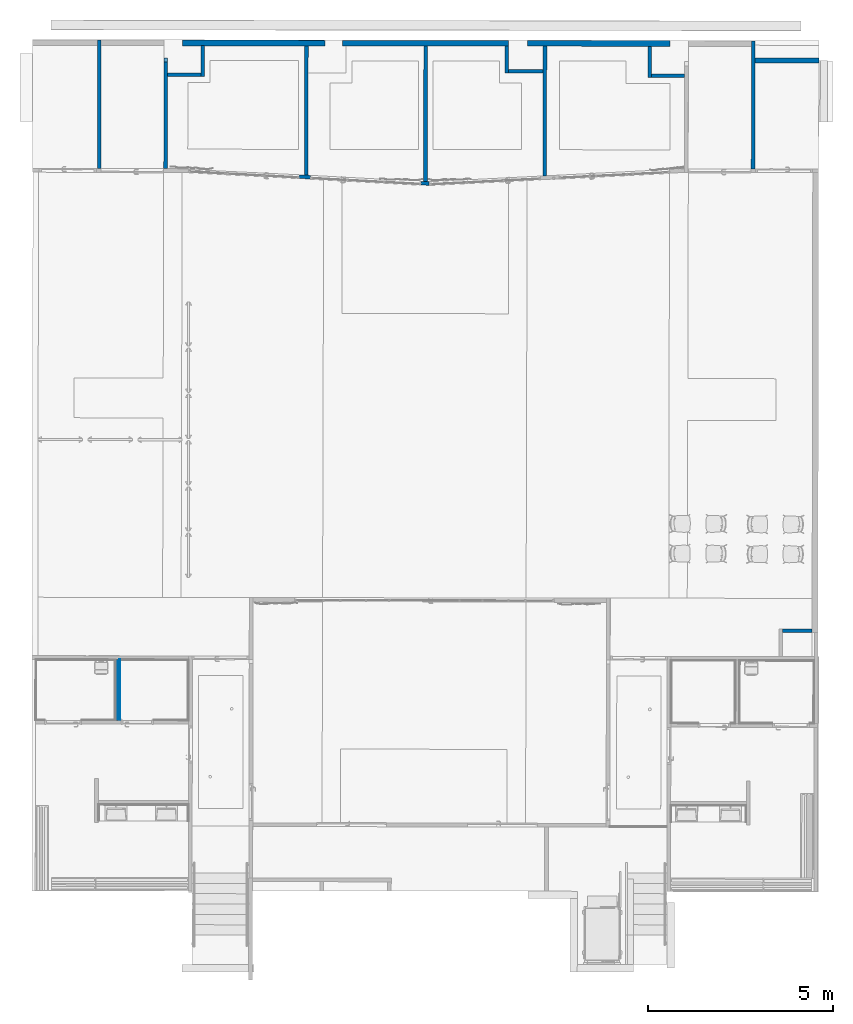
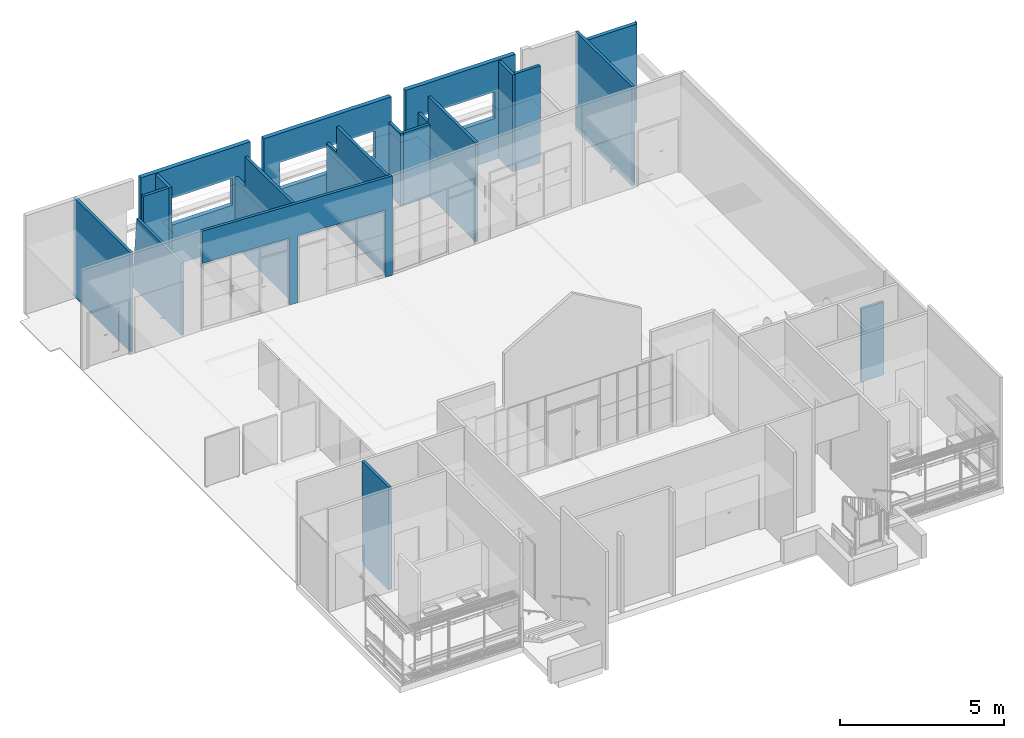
# One storey, part 17 of 43: 21 walls, 8 openings.
"""IFC2X3 building model written with IfcOpenShell, lengths in metres."""

from ifc_helpers import new_model, entity, si_unit, converted_unit, derived_unit, direction, frame, frame_2d, origin, place, context, subcontext, project, spatial, polyline, rectangle, outline, extrude, clip, halfspace, bounded_halfspace, faceted_brep, material, layer, layer_set, layer_usage, type_object, element, save


model = new_model("IFC2X3")

# Units and contexts
model_context = context("Model", 3, precision=1e-05, world=origin(), true_north=direction((6.123233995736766e-17, 1.0)))
body_context = subcontext(model_context, "Body", "Model", "MODEL_VIEW")
ifc_project = project(units=[si_unit("LENGTHUNIT", "METRE"), si_unit("AREAUNIT", "SQUARE_METRE"), converted_unit("PLANEANGLEUNIT", "DEGREE", entity("IfcPlaneAngleMeasure", 0.017453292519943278), si_unit("PLANEANGLEUNIT", "RADIAN"), dimensions=[0, 0, 0, 0, 0, 0, 0]), derived_unit("THERMALTRANSMITTANCEUNIT", [(si_unit("MASSUNIT", "GRAM", prefix="KILO"), 1), (si_unit("THERMODYNAMICTEMPERATUREUNIT", "KELVIN"), -1), (si_unit("TIMEUNIT", "SECOND"), -3)])], contexts=[model_context])

# Site, building, storey
site_placement = place(None, frame((1253.6752467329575, 2072.143113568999, 91.49999999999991), z_axis=(0.0, 0.0, 1.0), x_axis=(0.7237211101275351, 0.6900925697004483, 0.0)))
site = spatial("IfcSite", under=ifc_project, at=site_placement, Name="Surface", CompositionType="ELEMENT")
building_placement = place(site_placement, origin())
building = spatial("IfcBuilding", under=site, at=building_placement, CompositionType="ELEMENT")
storey_placement = place(building_placement, frame((0.0, 0.0, -4.629999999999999)))
storey = spatial("IfcBuildingStorey", under=building, at=storey_placement, Name="rez de rue -1.10m", CompositionType="ELEMENT", Elevation=-4.629999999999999)

# Walls
ifc_material_1 = material(Name="OMD_Cloison 100mm CF1h")
ifc_layer_1 = layer(ifc_material_1, 0.1)
ifc_layer_set_1 = layer_set([ifc_layer_1], Name="Mur de base:Cloison 100mm CF1h")
ifc_layer_usage_1 = layer_usage(ifc_layer_set_1, "AXIS2", "NEGATIVE", 0.05)
wall_type_1 = type_object("IfcWallType", Name="Mur de base:Cloison 100mm CF1h", PredefinedType="STANDARD", material=ifc_layer_set_1)
wall_1_placement = place(storey_placement, frame((190.01512372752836, 4.270476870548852, 0.0), z_axis=(0.0, 0.0, 1.0), x_axis=(-0.6911544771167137, -0.7227070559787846, 0.0)))
element("IfcWallStandardCase", 1, at=wall_1_placement, inside=storey, type_object=wall_type_1, material=ifc_layer_usage_1, Name="Mur de base:Cloison 100mm CF1h", ObjectType="Mur de base:Cloison 100mm CF1h", context=body_context, shape_type="Clipping", body=[
    clip(extrude(outline(polyline([(3.4667700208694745, -0.049999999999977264), (3.466770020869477, 0.05000000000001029), (0.602556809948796, 0.05000000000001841), (0.4695568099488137, 0.0500000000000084), (0.0, 0.050000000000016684), (2.3611774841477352e-05, -0.0499999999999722), (0.153023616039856, -0.049999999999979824), (3.4667700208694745, -0.049999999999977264)])), origin(), (0.0, 0.0, 1.0), 3.7031798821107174), bounded_halfspace(frame((2.361177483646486e-05, -0.0499999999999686, 3.6723209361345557), z_axis=(-0.00890106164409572, 0.0, 0.9999603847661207), x_axis=(0.0, -1.0, 0.0)), False, frame((2.361177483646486e-05, -0.0499999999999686, 3.6723209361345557)), polyline([(0.0, 0.0), (0.1530000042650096, 0.0), (3.466746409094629, 0.0), (3.4667464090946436, 0.09999999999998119), (0.6025331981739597, 0.0999999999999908), (0.4695331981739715, 0.09999999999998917), (-2.3611774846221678e-05, 0.09999999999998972), (0.0, 0.0)]))),
])
ifc_layer_usage_2 = layer_usage(ifc_layer_set_1, "AXIS2", "NEGATIVE", 0.05)
wall_2_placement = place(storey_placement, frame((177.21651182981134, 16.504531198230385, 0.0), z_axis=(0.0, 0.0, 1.0), x_axis=(-0.6911544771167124, -0.7227070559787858, 0.0)))
element("IfcWallStandardCase", 2, at=wall_2_placement, inside=storey, type_object=wall_type_1, material=ifc_layer_usage_2, Name="Mur de base:Cloison 100mm CF1h", ObjectType="Mur de base:Cloison 100mm CF1h", context=body_context, shape_type="Clipping", body=[
    clip(extrude(outline(polyline([(3.48242441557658, -0.04999999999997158), (3.482424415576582, 0.050000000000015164), (0.0, 0.05000000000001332), (2.3611774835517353e-05, -0.049999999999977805), (3.48242441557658, -0.04999999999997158)])), origin(), (0.0, 0.0, 1.0), 3.7031930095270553), bounded_halfspace(frame((2.3611774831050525e-05, -0.049999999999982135, 3.6721851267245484), z_axis=(-0.008900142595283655, -0.00012790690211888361, 0.9999603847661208), x_axis=(0.01436984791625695, -0.999896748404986, 0.0)), False, frame((2.3611774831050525e-05, -0.049999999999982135, 3.6721851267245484)), polyline([(0.0, 0.0), (3.4824008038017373, 0.0), (3.4824008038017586, 0.1), (-2.3611774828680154e-05, 0.09999999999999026), (0.0, 0.0)]))),
])
ifc_layer_usage_3 = layer_usage(ifc_layer_set_1, "AXIS2", "NEGATIVE", 0.05)
wall_3_placement = place(storey_placement, frame((178.18324237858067, 14.911056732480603, 0.0), z_axis=(0.0, 0.0, 1.0), x_axis=(-0.6911544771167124, -0.7227070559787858, 0.0)))
element("IfcWallStandardCase", 3, at=wall_3_placement, inside=storey, type_object=wall_type_1, material=ifc_layer_usage_3, Name="Mur de base:Cloison 100mm CF1h", ObjectType="Mur de base:Cloison 100mm CF1h", context=body_context, shape_type="Clipping", body=[
    clip(extrude(rectangle(XDim=2.9989693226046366, YDim=0.1000000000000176, at=frame_2d((1.4994846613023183, 2.3522850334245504e-15), x_axis=(-1.0, 0.0))), origin(), (0.0, 0.0, 1.0), 2.7000000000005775), halfspace(frame((0.0, -0.04999999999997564, 0.0), z_axis=(-0.9954583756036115, 0.0, 0.09519780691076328), x_axis=(0.0, 1.0, 0.0)), False)),
])

# Wall, openings
ifc_layer_usage_4 = layer_usage(ifc_layer_set_1, "AXIS2", "POSITIVE", -0.05)
wall_4_placement = place(storey_placement, frame((176.5230567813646, 12.280037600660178, 0.0), z_axis=(0.0, 0.0, 1.0), x_axis=(0.685544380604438, -0.7280308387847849, 0.0)))
wall_4 = element("IfcWallStandardCase", 4, at=wall_4_placement, inside=storey, type_object=wall_type_1, material=ifc_layer_usage_4, Name="Mur de base:Cloison 100mm CF1h", ObjectType="Mur de base:Cloison 100mm CF1h", context=body_context, shape_type="Clipping", body=[
    clip(extrude(outline(polyline([(0.0026185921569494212, -0.04999999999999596), (6.5298423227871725, -0.049999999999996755), (6.5246015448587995, 0.04999999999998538), (0.0, 0.04999999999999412), (0.0026185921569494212, -0.04999999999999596)])), origin(), (0.0, 0.0, 1.0), 3.707287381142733), bounded_halfspace(frame((0.0026185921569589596, -0.04999999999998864, 3.7042465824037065), z_axis=(-0.0004658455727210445, 0.008888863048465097, 0.9999603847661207), x_axis=(-0.9986295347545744, -0.052335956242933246, 0.0)), False, frame((0.0026185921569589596, -0.04999999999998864, 3.7042465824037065)), polyline([(0.0, 0.0), (6.527223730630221, 0.0), (6.521982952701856, 0.09999999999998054), (-0.002618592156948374, 0.09999999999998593), (0.0, 0.0)]))),
])
opening_1_placement = place(wall_4_placement, frame((4.896207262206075, -1.69969235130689, 0.0)))
element("IfcOpeningElement", 5, at=opening_1_placement, cuts=wall_4, Name="Mur de base:Cloison 100mm CF1h", ObjectType="Opening", context=body_context, shape_type="SweptSolid", body=[
    extrude(rectangle(XDim=2.4999999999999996, YDim=3.0000000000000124, at=frame_2d((2.220446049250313e-16, -4.440892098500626e-16), x_axis=(1.0, 0.0))), frame((-0.09008670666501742, 1.4972923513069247, 1.2499999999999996), z_axis=(0.0, 1.0, 0.0), x_axis=(0.0, 0.0, 1.0)), (0.0, 0.0, 1.0), 0.40480000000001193),
])
opening_2_placement = place(wall_4_placement, frame((1.5927057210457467, -1.6996919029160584, 0.0)))
element("IfcOpeningElement", 6, at=opening_2_placement, cuts=wall_4, Name="Mur de base:Cloison 100mm CF1h", ObjectType="Opening", context=body_context, shape_type="SweptSolid", body=[
    extrude(rectangle(XDim=2.4999999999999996, YDim=2.9999991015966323, at=frame_2d((0.0, -2.220446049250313e-16), x_axis=(0.0, 1.0))), frame((-0.09008667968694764, 1.497291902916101, 1.25), z_axis=(0.0, 1.0, 0.0), x_axis=(-1.0, 0.0, 0.0)), (0.0, 0.0, 1.0), 0.40480000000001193),
])

# Walls
ifc_material_2 = material(Name="OMD_Cloison 100mm")
ifc_layer_2 = layer(ifc_material_2, 0.1)
ifc_layer_set_2 = layer_set([ifc_layer_2], Name="Mur de base:Cloison 100mm")
wall_type_2 = type_object("IfcWallType", Name="Mur de base:Cloison 100mm", PredefinedType="STANDARD", material=ifc_layer_set_2)
wall_5_placement = place(storey_placement, frame((166.0008740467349, 4.025427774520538, 0.0), z_axis=(0.0, 0.0, 1.0), x_axis=(-0.6911544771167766, -0.7227070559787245, 0.0)))
element("IfcWall", 7, at=wall_5_placement, inside=storey, type_object=wall_type_2, Name="Mur de base:Cloison 100mm", ObjectType="Mur de base:Cloison 100mm", context=body_context, shape_type="Brep", body=[
    faceted_brep([(0.09941587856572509, -0.04999999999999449, 0.0), (1.6494697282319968, -0.04999999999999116, 0.0), (1.6494697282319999, -0.0499999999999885, 3.8361979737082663), (2.3611774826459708e-05, -0.049999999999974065, 3.82151708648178), (2.3611774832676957e-05, -0.04999999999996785, 0.08000000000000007), (0.0994158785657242, -0.04999999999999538, 0.08000000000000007), (1.6494697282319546, 0.0500000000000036, 0.0), (0.09939226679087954, 0.04999999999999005, 0.0), (0.09939226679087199, 0.04999999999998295, 0.08000000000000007), (0.0, 0.05000000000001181, 0.08000000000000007), (0.0, 0.05000000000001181, 3.82152966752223), (1.6494697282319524, 0.05000000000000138, 3.8362107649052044)], [[[0, 1, 2, 3, 4, 5]], [[6, 7, 8, 9, 10, 11]], [[1, 0, 7, 6]], [[2, 1, 6, 11]], [[7, 0, 5, 8]], [[3, 10, 9, 4]], [[3, 2, 11, 10]], [[9, 8, 5, 4]]]),
])
ifc_layer_usage_5 = layer_usage(ifc_layer_set_2, "AXIS2", "POSITIVE", -0.05)
wall_6_placement = place(storey_placement, frame((179.13895725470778, 14.458108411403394, 0.0), z_axis=(0.0, 0.0, 1.0), x_axis=(-0.6911544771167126, -0.7227070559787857, 0.0)))
element("IfcWallStandardCase", 8, at=wall_6_placement, inside=storey, type_object=wall_type_2, material=ifc_layer_usage_5, Name="Mur de base:Cloison 100mm", ObjectType="Mur de base:Cloison 100mm", context=body_context, shape_type="SweptSolid", body=[
    extrude(rectangle(XDim=0.8379020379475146, YDim=0.10000000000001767, at=frame_2d((0.4189510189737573, 2.0816681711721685e-15), x_axis=(-1.0, 0.0))), origin(), (0.0, 0.0, 1.0), 3.6299999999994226),
])
ifc_layer_usage_6 = layer_usage(ifc_layer_set_2, "AXIS2", "POSITIVE", -0.05)
wall_7_placement = place(storey_placement, frame((178.55825988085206, 13.923243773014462, 0.0), z_axis=(0.0, 0.0, 1.0), x_axis=(-0.722707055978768, 0.691154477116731, 0.0)))
element("IfcWallStandardCase", 9, at=wall_7_placement, inside=storey, type_object=wall_type_2, material=ifc_layer_usage_6, Name="Mur de base:Cloison 100mm", ObjectType="Mur de base:Cloison 100mm", context=body_context, shape_type="SweptSolid", body=[
    extrude(rectangle(XDim=0.9037591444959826, YDim=0.09999999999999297, at=frame_2d((0.4518795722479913, -1.3704315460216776e-15), x_axis=(-1.0, 0.0))), origin(), (0.0, 0.0, 1.0), 3.6299999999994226),
])
ifc_layer_usage_7 = layer_usage(ifc_layer_set_2, "AXIS2", "POSITIVE", -0.05)
wall_8_placement = place(storey_placement, frame((187.88447979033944, 6.095480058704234, 0.0), z_axis=(0.0, 0.0, 1.0), x_axis=(-0.6911544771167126, -0.7227070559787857, 0.0)))
element("IfcWallStandardCase", 10, at=wall_8_placement, inside=storey, type_object=wall_type_2, material=ifc_layer_usage_7, Name="Mur de base:Cloison 100mm", ObjectType="Mur de base:Cloison 100mm", context=body_context, shape_type="SweptSolid", body=[
    extrude(outline(polyline([(0.8452020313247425, -0.04999999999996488), (0.8452020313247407, 0.05000000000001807), (0.7452020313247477, 0.05000000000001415), (0.0, 0.050000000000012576), (2.3611774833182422e-05, -0.04999999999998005), (0.8452020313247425, -0.04999999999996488)])), origin(), (0.0, 0.0, 1.0), 3.6299999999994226),
])
ifc_layer_usage_8 = layer_usage(ifc_layer_set_2, "AXIS2", "POSITIVE", -0.05)
wall_9_placement = place(storey_placement, frame((187.371007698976, 5.48622421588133, 0.0), z_axis=(0.0, 0.0, 1.0), x_axis=(0.7227070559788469, -0.6911544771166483, 0.0)))
element("IfcWallStandardCase", 11, at=wall_9_placement, inside=storey, type_object=wall_type_2, material=ifc_layer_usage_8, Name="Mur de base:Cloison 100mm", ObjectType="Mur de base:Cloison 100mm", context=body_context, shape_type="SweptSolid", body=[
    extrude(outline(polyline([(0.8940794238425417, -0.04999999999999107), (0.8941930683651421, 0.05000000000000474), (0.0, 0.04999999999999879), (0.0, -0.04999999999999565), (0.8940794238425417, -0.04999999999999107)])), origin(), (0.0, 0.0, 1.0), 3.6299999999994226),
])
ifc_layer_usage_9 = layer_usage(ifc_layer_set_2, "AXIS2", "NEGATIVE", 0.05)
wall_10_placement = place(storey_placement, frame((179.5699556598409, -7.837406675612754, 0.0), z_axis=(0.0, 0.0, 1.0), x_axis=(0.7227070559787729, -0.691154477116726, 0.0)))
element("IfcWallStandardCase", 12, at=wall_10_placement, inside=storey, type_object=wall_type_2, material=ifc_layer_usage_9, Name="Mur de base:Cloison 100mm", ObjectType="Mur de base:Cloison 100mm", context=body_context, shape_type="Clipping", body=[
    clip(extrude(rectangle(XDim=0.7966842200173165, YDim=0.09999999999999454, at=frame_2d((0.39834211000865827, -6.591949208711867e-17), x_axis=(-1.0, 0.0))), origin(), (0.0, 0.0, 1.0), 2.725), bounded_halfspace(frame((0.0, -0.04999999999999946, 2.7250000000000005), z_axis=(0.0, 0.0, -1.0), x_axis=(-1.0, 0.0, 0.0)), True, frame((0.0, -0.04999999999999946, 2.7250000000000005)), polyline([(0.0, 0.0), (0.7956869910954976, 0.0), (0.795794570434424, 0.09999999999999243), (0.0, 0.09999999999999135), (0.0, 0.0)]))),
])

# Wall, openings
ifc_material_3 = material(Name="Maçonnerie - Isolant")
ifc_layer_3 = layer(ifc_material_3, 0.12)
ifc_material_4 = material(Name="Mur par défaut")
ifc_layer_4 = layer(ifc_material_4, 0.02)
ifc_material_5 = material(Name="OMD_panneaux bois")
ifc_layer_5 = layer(ifc_material_5, 0.013)
ifc_layer_set_3 = layer_set([ifc_layer_3, ifc_layer_4, ifc_layer_5], Name="Mur de base:Cloison bois")
ifc_layer_usage_10 = layer_usage(ifc_layer_set_3, "AXIS2", "NEGATIVE", 0.0765)
wall_type_3 = type_object("IfcWallType", Name="Mur de base:Cloison bois", PredefinedType="STANDARD", material=ifc_layer_set_3)
wall_11_placement = place(storey_placement, frame((178.79264292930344, 14.89499097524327, 0.0), z_axis=(0.0, 0.0, 1.0), x_axis=(0.7228702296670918, -0.6909838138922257, 0.0)))
wall_11 = element("IfcWallStandardCase", 13, at=wall_11_placement, inside=storey, type_object=wall_type_3, material=ifc_layer_usage_10, Name="Mur de base:Cloison bois", ObjectType="Mur de base:Cloison bois", context=body_context, shape_type="SweptSolid", body=[
    extrude(rectangle(XDim=3.8307672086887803, YDim=0.15299999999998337, at=frame_2d((1.9153836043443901, -1.5890067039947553e-15), x_axis=(-1.0, 0.0))), origin(), (0.0, 0.0, 1.0), 3.6199999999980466),
])
opening_3_placement = place(wall_11_placement, frame((-118.95168118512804, -134.30996785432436, 2.5799999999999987)))
element("IfcOpeningElement", 14, at=opening_3_placement, cuts=wall_11, Name="Mur de base:Cloison bois", ObjectType="Opening", context=body_context, shape_type="SweptSolid", body=[
    extrude(rectangle(XDim=1.0, YDim=2.5300000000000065, at=frame_2d((-7.771561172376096e-16, 0.0), x_axis=(0.0, 1.0))), frame((120.90131198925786, 132.70946785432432, 0.5), z_axis=(0.0, 1.0, 0.0), x_axis=(1.0, 0.0, 0.0)), (0.0, 0.0, 1.0), 3.048000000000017),
])
opening_4_placement = place(wall_11_placement, origin())
element("IfcOpeningElement", 15, at=opening_4_placement, cuts=wall_11, Name="Mur de base:Cloison bois", ObjectType="Opening", context=body_context, shape_type="SweptSolid", body=[
    extrude(rectangle(XDim=1.0099999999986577, YDim=2.5329468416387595, at=frame_2d((2.7755575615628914e-16, -1.8540724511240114e-14), x_axis=(1.0, 0.0))), frame((1.9511174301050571, 0.07650000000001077, 2.0349999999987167), z_axis=(0.0, -1.0, 0.0), x_axis=(0.0, 0.0, -1.0)), (0.0, 0.0, 1.0), 0.153),
])

ifc_layer_usage_11 = layer_usage(ifc_layer_set_3, "AXIS2", "NEGATIVE", 0.0765)
wall_12_placement = place(storey_placement, frame((181.92336241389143, 11.899459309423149, 0.0), z_axis=(0.0, 0.0, 1.0), x_axis=(0.7228702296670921, -0.6909838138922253, 0.0)))
wall_12 = element("IfcWallStandardCase", 16, at=wall_12_placement, inside=storey, type_object=wall_type_3, material=ifc_layer_usage_11, Name="Mur de base:Cloison bois", ObjectType="Mur de base:Cloison bois", context=body_context, shape_type="SweptSolid", body=[
    extrude(rectangle(XDim=4.5008361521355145, YDim=0.15299999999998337, at=frame_2d((2.2504180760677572, -1.1726730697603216e-15), x_axis=(-1.0, 0.0))), origin(), (0.0, 0.0, 1.0), 3.619999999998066),
])
opening_5_placement = place(wall_12_placement, frame((-123.28464899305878, -134.30786368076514, 1.5304000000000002)))
element("IfcOpeningElement", 17, at=opening_5_placement, cuts=wall_12, Name="Mur de base:Cloison bois", ObjectType="Opening", context=body_context, shape_type="SweptSolid", body=[
    extrude(rectangle(XDim=1.0, YDim=3.369999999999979, at=frame_2d((1.8540724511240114e-14, 0.0), x_axis=(0.0, 1.0))), frame((125.5398664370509, 132.7073636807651, 0.5), z_axis=(0.0, 1.0, 0.0), x_axis=(1.0, 0.0, 0.0)), (0.0, 0.0, 1.0), 3.0480000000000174),
])
opening_6_placement = place(wall_12_placement, origin())
element("IfcOpeningElement", 18, at=opening_6_placement, cuts=wall_12, Name="Mur de base:Cloison bois", ObjectType="Opening", context=body_context, shape_type="SweptSolid", body=[
    extrude(rectangle(XDim=1.0099999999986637, YDim=3.370111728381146, at=frame_2d((0.0, -1.8540724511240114e-14), x_axis=(1.0, 0.0))), frame((2.2558856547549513, 0.07649999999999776, 2.0349999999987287), z_axis=(0.0, -1.0, 0.0), x_axis=(0.0, 0.0, -1.0)), (0.0, 0.0, 1.0), 0.153),
])

# Wall, opening
ifc_layer_usage_12 = layer_usage(ifc_layer_set_3, "AXIS2", "NEGATIVE", 0.0765)
wall_13_placement = place(storey_placement, frame((185.54042982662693, 8.441943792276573, 0.0), z_axis=(0.0, 0.0, 1.0), x_axis=(0.7228702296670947, -0.6909838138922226, 0.0)))
wall_13 = element("IfcWallStandardCase", 19, at=wall_13_placement, inside=storey, type_object=wall_type_3, material=ifc_layer_usage_12, Name="Mur de base:Cloison bois", ObjectType="Mur de base:Cloison bois", context=body_context, shape_type="SweptSolid", body=[
    extrude(rectangle(XDim=3.8618985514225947, YDim=0.15299999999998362, at=frame_2d((1.9309492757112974, -1.582067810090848e-15), x_axis=(-1.0, 0.0))), origin(), (0.0, 0.0, 1.0), 3.676699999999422),
])
opening_7_placement = place(wall_13_placement, origin())
element("IfcOpeningElement", 20, at=opening_7_placement, cuts=wall_13, Name="Mur de base:Cloison bois", ObjectType="Opening", context=body_context, shape_type="SweptSolid", body=[
    extrude(rectangle(XDim=0.9999999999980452, YDim=2.5280258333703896, at=frame_2d((-4.440892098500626e-16, 1.1102230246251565e-16), x_axis=(0.0, 1.0))), frame((1.8833641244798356, 0.07649999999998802, 2.0299999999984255), z_axis=(0.0, -1.0, 0.0), x_axis=(-1.0, 0.0, 0.0)), (0.0, 0.0, 1.0), 0.153),
])

ifc_layer_usage_13 = layer_usage(ifc_layer_set_3, "AXIS2", "NEGATIVE", 0.0765)
wall_14_placement = place(storey_placement, frame((178.78882189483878, 14.895732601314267, 0.0), z_axis=(0.0, 0.0, 1.0), x_axis=(0.7228702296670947, -0.6909838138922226, 0.0)))
wall_14 = element("IfcWallStandardCase", 21, at=wall_14_placement, inside=storey, type_object=wall_type_3, material=ifc_layer_usage_13, Name="Mur de base:Cloison bois", ObjectType="Mur de base:Cloison bois", context=body_context, shape_type="SweptSolid", body=[
    extrude(rectangle(XDim=3.8618985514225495, YDim=0.15299999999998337, at=frame_2d((1.9309492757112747, -3.066991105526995e-15), x_axis=(-1.0, 0.0))), origin(), (0.0, 0.0, 1.0), 3.676699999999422),
])
opening_8_placement = place(wall_14_placement, origin())
element("IfcOpeningElement", 22, at=opening_8_placement, cuts=wall_14, Name="Mur de base:Cloison bois", ObjectType="Opening", context=body_context, shape_type="SweptSolid", body=[
    extrude(rectangle(XDim=0.9999999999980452, YDim=2.601532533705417, at=frame_2d((1.4432899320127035e-15, 1.3877787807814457e-16), x_axis=(0.0, 1.0))), frame((1.920117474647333, 0.07649999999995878, 2.0299999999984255), z_axis=(0.0, -1.0, 0.0), x_axis=(-1.0, 0.0, 0.0)), (0.0, 0.0, 1.0), 0.153),
])

# Walls
ifc_material_6 = material(Name="OMD_Cloison 100mm Acoustique")
ifc_layer_6 = layer(ifc_material_6, 0.1)
ifc_layer_set_4 = layer_set([ifc_layer_6], Name="Mur de base:Cloison 100mm Acoustique")
ifc_layer_usage_14 = layer_usage(ifc_layer_set_4, "AXIS2", "POSITIVE", -0.05)
wall_type_4 = type_object("IfcWallType", Name="Mur de base:Cloison 100mm Acoustique", PredefinedType="STANDARD", material=ifc_layer_set_4)
wall_15_placement = place(storey_placement, frame((185.83241750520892, 8.057024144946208, 0.0), z_axis=(0.0, 0.0, 1.0), x_axis=(-0.6911544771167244, -0.7227070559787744, 0.0)))
element("IfcWallStandardCase", 23, at=wall_15_placement, inside=storey, type_object=wall_type_4, material=ifc_layer_usage_14, Name="Mur de base:Cloison 100mm Acoustique", ObjectType="Mur de base:Cloison 100mm Acoustique", context=body_context, shape_type="Clipping", body=[
    clip(clip(extrude(outline(polyline([(3.512411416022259, -0.049999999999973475), (3.507170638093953, 0.05000000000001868), (0.0, 0.05000000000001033), (2.3611774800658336e-05, -0.04999999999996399), (0.6290504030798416, -0.04999999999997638), (0.7290504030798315, -0.049999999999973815), (3.512411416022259, -0.049999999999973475)])), origin(), (0.0, 0.0, 1.0), 3.7049599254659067), bounded_halfspace(frame((0.6196341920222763, -0.049999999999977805, 3.679210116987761), z_axis=(-0.00890106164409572, 0.0, 0.9999603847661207), x_axis=(0.0, -1.0, 0.0)), False, frame((0.6196341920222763, -0.049999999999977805, 3.679210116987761)), polyline([(0.0, 0.0), (2.8927772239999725, 0.0), (2.8875364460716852, 0.09999999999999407), (0.00011364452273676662, 0.09999999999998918), (0.0, 0.0)]))), bounded_halfspace(frame((2.3611774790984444e-05, -0.049999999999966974, 2.700000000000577), z_axis=(0.0, 0.0, 1.0), x_axis=(0.0, 1.0, 0.0)), False, frame((2.3611774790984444e-05, -0.049999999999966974, 2.700000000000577)), polyline([(0.0, 0.0), (0.6196105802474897, 0.0), (0.6197242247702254, 0.0999999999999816), (-2.3611774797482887e-05, 0.09999999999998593), (0.0, 0.0)]))),
])
ifc_layer_usage_15 = layer_usage(ifc_layer_set_4, "AXIS2", "POSITIVE", -0.05)
wall_16_placement = place(storey_placement, frame((178.74525495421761, 9.989236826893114, 0.0), z_axis=(0.0, 0.0, 1.0), x_axis=(0.6911544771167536, 0.7227070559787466, 0.0)))
element("IfcWallStandardCase", 24, at=wall_16_placement, inside=storey, type_object=wall_type_4, material=ifc_layer_usage_15, Name="Mur de base:Cloison 100mm Acoustique", ObjectType="Mur de base:Cloison 100mm Acoustique", context=body_context, shape_type="Clipping", body=[
    clip(clip(extrude(outline(polyline([(3.5003756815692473, -0.049999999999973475), (3.500352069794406, 0.05000000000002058), (0.005240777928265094, 0.050000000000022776), (0.0, -0.049999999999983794), (2.77284998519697, -0.04999999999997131), (2.872849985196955, -0.049999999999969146), (3.5003756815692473, -0.049999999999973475)])), origin(), (0.0, 0.0, 1.0), 3.704866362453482), bounded_halfspace(frame((0.0, -0.0499999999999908, 3.7048663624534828), z_axis=(0.00890106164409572, 0.0, 0.9999603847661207), x_axis=(0.0, 1.0, 0.0)), False, frame((0.0, -0.0499999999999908, 3.7048663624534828)), polyline([(0.0, 0.0), (2.889491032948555, 0.0), (2.889604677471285, 0.10000000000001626), (0.005240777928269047, 0.10000000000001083), (0.0, 0.0)]))), bounded_halfspace(frame((2.889491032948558, -0.04999999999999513, 2.5500000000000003), z_axis=(0.0, 0.0, 1.0), x_axis=(0.0, 1.0, 0.0)), False, frame((2.889491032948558, -0.04999999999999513, 2.5500000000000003)), polyline([(0.0, 0.0), (0.6108846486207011, 0.0), (0.6108610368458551, 0.09999999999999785), (0.00011364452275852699, 0.09999999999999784), (0.0, 0.0)]))),
])
ifc_layer_usage_16 = layer_usage(ifc_layer_set_4, "AXIS2", "NEGATIVE", 0.05)
wall_17_placement = place(storey_placement, frame((185.08786114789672, 8.768737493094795, 0.0), z_axis=(0.0, 0.0, 1.0), x_axis=(-0.6911544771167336, -0.7227070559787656, 0.0)))
element("IfcWallStandardCase", 25, at=wall_17_placement, inside=storey, type_object=wall_type_4, material=ifc_layer_usage_16, Name="Mur de base:Cloison 100mm Acoustique", ObjectType="Mur de base:Cloison 100mm Acoustique", context=body_context, shape_type="SweptSolid", body=[
    extrude(outline(polyline([(0.7288072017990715, -0.049999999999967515), (0.7288072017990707, 0.050000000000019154), (0.628807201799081, 0.0500000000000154), (0.0, 0.05000000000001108), (2.3611774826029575e-05, -0.04999999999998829), (0.7288072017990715, -0.049999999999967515)])), origin(), (0.0, 0.0, 1.0), 2.7000000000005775),
])
ifc_layer_usage_17 = layer_usage(ifc_layer_set_4, "AXIS2", "NEGATIVE", 0.05)
wall_18_placement = place(storey_placement, frame((184.65483586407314, 8.243601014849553, 0.0), z_axis=(0.0, 0.0, 1.0), x_axis=(0.7227070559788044, -0.691154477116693, 0.0)))
element("IfcWallStandardCase", 26, at=wall_18_placement, inside=storey, type_object=wall_type_4, material=ifc_layer_usage_17, Name="Mur de base:Cloison 100mm Acoustique", ObjectType="Mur de base:Cloison 100mm Acoustique", context=body_context, shape_type="SweptSolid", body=[
    extrude(rectangle(XDim=0.9300000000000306, YDim=0.09999999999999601, at=frame_2d((0.4650000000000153, -6.591949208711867e-16), x_axis=(-1.0, 0.0))), origin(), (0.0, 0.0, 1.0), 2.7000000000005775),
])
ifc_layer_usage_18 = layer_usage(ifc_layer_set_4, "AXIS2", "NEGATIVE", 0.05)
wall_19_placement = place(storey_placement, frame((180.9608171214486, 7.636365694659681, 0.0), z_axis=(0.0, 0.0, 1.0), x_axis=(0.6911544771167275, 0.7227070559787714, 0.0)))
element("IfcWallStandardCase", 27, at=wall_19_placement, inside=storey, type_object=wall_type_4, material=ifc_layer_usage_18, Name="Mur de base:Cloison 100mm Acoustique", ObjectType="Mur de base:Cloison 100mm Acoustique", context=body_context, shape_type="Clipping", body=[
    clip(clip(extrude(outline(polyline([(3.670278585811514, -0.049999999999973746), (3.6702549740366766, 0.050000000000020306), (0.005240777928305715, 0.050000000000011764), (0.0, -0.04999999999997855), (3.670278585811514, -0.049999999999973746)])), origin(), (0.0, 0.0, 1.0), 3.7063719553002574), bounded_halfspace(frame((0.0, -0.04999999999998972, 3.7063719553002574), z_axis=(0.00890106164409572, 0.0, 0.9999603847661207), x_axis=(0.0, 1.0, 0.0)), False, frame((0.0, -0.04999999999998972, 3.7063719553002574)), polyline([(0.0, 0.0), (3.054964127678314, 0.0), (3.055077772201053, 0.09999999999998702), (0.005240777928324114, 0.09999999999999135), (0.0, 0.0)]))), bounded_halfspace(frame((3.054964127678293, -0.04999999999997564, 2.700000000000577), z_axis=(0.0, 0.0, 1.0), x_axis=(0.0, 1.0, 0.0)), False, frame((3.054964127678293, -0.04999999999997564, 2.700000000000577)), polyline([(0.0, 0.0), (0.6153144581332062, 0.0), (0.6152908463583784, 0.09999999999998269), (0.00011364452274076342, 0.09999999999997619), (0.0, 0.0)]))),
])
ifc_material_7 = material(Name="OMD faience douche 60*120")
ifc_layer_7 = layer(ifc_material_7, 0.02)
ifc_layer_set_5 = layer_set([ifc_layer_7], Name="Mur de base:faïence douches")
wall_type_5 = type_object("IfcWallType", Name="Mur de base:faïence douches", PredefinedType="STANDARD", material=ifc_layer_set_5)
wall_20_placement = place(storey_placement, frame((166.04423973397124, 3.983961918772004, 0.0), z_axis=(0.0, 0.0, 1.0), x_axis=(-0.6911544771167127, -0.7227070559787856, 0.0)))
element("IfcWall", 28, at=wall_20_placement, inside=storey, type_object=wall_type_5, Name="Mur de base:faïence douches", ObjectType="Mur de base:faïence douches", context=body_context, shape_type="Brep", body=[
    faceted_brep([(0.09939698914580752, -0.010000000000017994, 0.0), (1.6294744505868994, -0.010000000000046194, 0.0), (1.6294744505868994, -0.010000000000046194, 2.4999999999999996), (4.7223549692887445e-06, -0.010000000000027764, 2.4999999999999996), (4.722354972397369e-06, -0.010000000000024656, 0.08000000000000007), (0.09939698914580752, -0.010000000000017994, 0.08000000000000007), (0.09939226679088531, 0.009999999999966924, 0.0), (0.099392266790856, 0.010000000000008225, 0.08000000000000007), (0.0, 0.009999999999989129, 0.08000000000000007), (0.0, 0.009999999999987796, 2.4999999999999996), (0.018953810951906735, 0.009999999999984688, 2.4999999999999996), (1.6294744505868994, 0.009999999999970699, 2.4999999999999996), (1.6294744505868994, 0.009999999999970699, 0.0)], [[[0, 1, 2, 3, 4, 5]], [[6, 7, 8, 9, 10, 11, 12]], [[1, 0, 6, 12]], [[3, 2, 11, 10, 9]], [[0, 5, 7, 6]], [[4, 3, 9, 8]], [[2, 1, 12, 11]], [[4, 8, 7, 5]]]),
])
ifc_material_8 = material(Name="OMD_BA 25")
ifc_layer_8 = layer(ifc_material_8, 0.013)
ifc_layer_9 = layer(ifc_material_3, 0.12)
ifc_layer_set_6 = layer_set([ifc_layer_8, ifc_layer_9], Name="Mur de base:ITI 120mm+BA13 2")
ifc_layer_usage_19 = layer_usage(ifc_layer_set_6, "AXIS2", "POSITIVE", -0.06649999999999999)
wall_type_6 = type_object("IfcWallType", Name="Mur de base:ITI 120mm+BA13 2", PredefinedType="STANDARD", material=ifc_layer_set_6)
wall_21_placement = place(storey_placement, frame((189.68076101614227, 3.848507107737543, 0.0), z_axis=(0.0, 0.0, 1.0), x_axis=(0.7227070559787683, -0.6911544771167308, 0.0)))
element("IfcWallStandardCase", 29, at=wall_21_placement, inside=storey, type_object=wall_type_6, material=ifc_layer_usage_19, Name="Mur de base:ITI 120mm+BA13 2", ObjectType="Mur de base:ITI 120mm+BA13 2", context=body_context, shape_type="Clipping", body=[
    clip(extrude(outline(polyline([(1.7270372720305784, -0.06650000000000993), (1.7270705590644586, 0.0665000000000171), (0.0, 0.06650000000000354), (0.0, -0.06649999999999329), (1.7270372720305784, -0.06650000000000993)])), origin(), (0.0, 0.0, 1.0), 3.7411987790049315), bounded_halfspace(frame((0.0, -0.06649999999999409, 3.6776843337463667), z_axis=(0.0, 0.00890106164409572, 0.9999603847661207), x_axis=(-1.0, 0.0, 0.0)), False, frame((0.0, -0.06649999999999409, 3.6776843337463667)), polyline([(0.0, 0.0), (1.7263054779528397, 0.0), (1.7263054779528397, 0.13300000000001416), (0.0, 0.133000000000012), (0.0, 0.0)]))),
])

save(model, "model.ifc")
